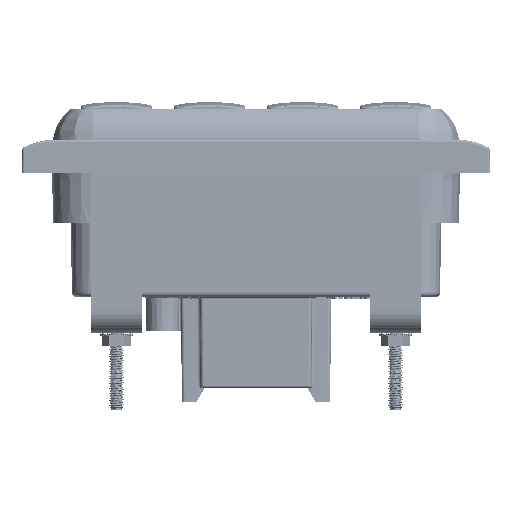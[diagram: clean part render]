
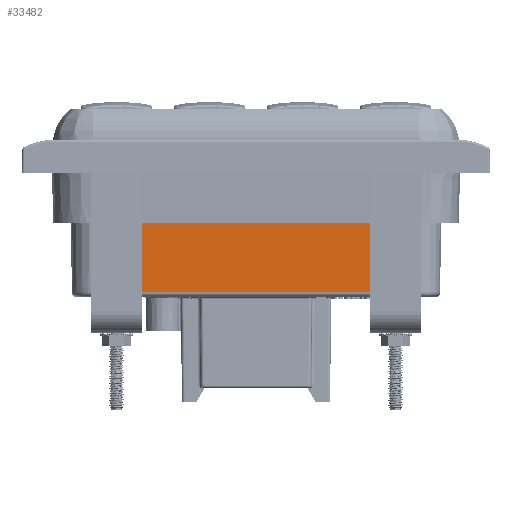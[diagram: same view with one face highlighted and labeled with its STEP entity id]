
A CAD part, left-side view. The second image highlights one B-rep face of the part: STEP entity #33482.
In plain terms, the highlighted planar face has unit normal (-1, 0, -0.009).
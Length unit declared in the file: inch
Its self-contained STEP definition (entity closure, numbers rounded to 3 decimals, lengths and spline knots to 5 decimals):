
#12444=DIRECTION('',(0.009,0.,-1.));
#12445=VECTOR('',#12444,1.37075);
#12446=CARTESIAN_POINT('',(-0.53974,1.545,
-0.02974));
#12447=LINE('',#12446,#12445);
#12452=DIRECTION('',(0.,1.,0.));
#12453=VECTOR('',#12452,3.09);
#12454=CARTESIAN_POINT('',(-0.53974,-1.545,
-0.02974));
#12455=LINE('',#12454,#12453);
#12479=DIRECTION('',(-0.009,0.,1.));
#12480=VECTOR('',#12479,1.37075);
#12481=CARTESIAN_POINT('',(-0.52778,-1.545,
-1.40044));
#12482=LINE('',#12481,#12480);
#12564=DIRECTION('',(0.,-1.,0.));
#12565=VECTOR('',#12564,3.09);
#12566=CARTESIAN_POINT('',(-0.52778,1.545,
-1.40044));
#12567=LINE('',#12566,#12565);
#21857=CARTESIAN_POINT('',(-0.52778,-1.545,-1.40044));
#21858=VERTEX_POINT('',#21857);
#21859=CARTESIAN_POINT('',(-0.52778,1.545,-1.40044));
#21860=VERTEX_POINT('',#21859);
#21885=CARTESIAN_POINT('',(-0.53974,-1.545,
-0.02974));
#21886=VERTEX_POINT('',#21885);
#21889=CARTESIAN_POINT('',(-0.53974,1.545,
-0.02974));
#21890=VERTEX_POINT('',#21889);
#33468=CARTESIAN_POINT('',(-0.54,2.59449,0.));
#33469=DIRECTION('',(-1.,0.,-0.009));
#33470=DIRECTION('',(0.,1.,0.));
#33471=AXIS2_PLACEMENT_3D('',#33468,#33469,#33470);
#33472=PLANE('',#33471);
#33474=ORIENTED_EDGE('',*,*,#33473,.F.);
#33476=ORIENTED_EDGE('',*,*,#33475,.F.);
#33478=ORIENTED_EDGE('',*,*,#33477,.F.);
#33479=ORIENTED_EDGE('',*,*,#33460,.F.);
#33480=EDGE_LOOP('',(#33474,#33476,#33478,#33479));
#33481=FACE_OUTER_BOUND('',#33480,.F.);
#33482=ADVANCED_FACE('',(#33481),#33472,.T.);
#33460=EDGE_CURVE('',#21890,#21860,#12447,.T.);
#33473=EDGE_CURVE('',#21886,#21890,#12455,.T.);
#33475=EDGE_CURVE('',#21858,#21886,#12482,.T.);
#33477=EDGE_CURVE('',#21860,#21858,#12567,.T.);
